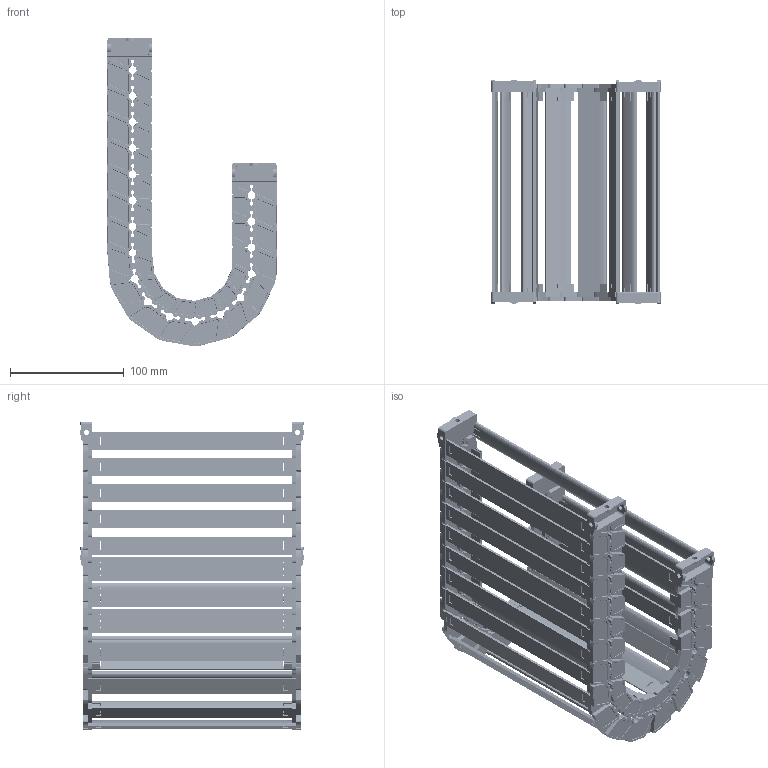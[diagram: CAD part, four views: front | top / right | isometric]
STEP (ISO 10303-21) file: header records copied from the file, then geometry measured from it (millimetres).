
FILE_DESCRIPTION((''),'2;1');
FILE_NAME('JY-32X175-R55_ASM','2026-05-04T14:18:54',('admin'),(''),'CREO PARAMETRIC BY PTC INC, 2021023','CREO PARAMETRIC BY PTC INC, 2021023','');
FILE_SCHEMA(('CONFIG_CONTROL_DESIGN'));
Length unit declared in the file: millimetre
Products named in the file (12): 32XL-L; YP; 32XL-R; ASM0001_ASM; ASM0002_ASM; 32-LTT-A-L; 32-LTT-A-R; 32XL-LTT-A_ASM; 32-LTT-B-L; 32-LTT-B-R; 32XL-LTT-B_ASM; JY-32X175-R55_ASM
Assembly tree (34 placements, depth 3):
  JY-32X175-R55_ASM
    ASM0001_ASM  x8
      32XL-L
      YP
      32XL-R
    ASM0002_ASM  x9
      32XL-L
      YP
      32XL-R
    32XL-LTT-A_ASM
      32-LTT-A-L
      YP  x2
      32-LTT-A-R
    32XL-LTT-B_ASM
      32-LTT-B-L
      YP  x2
      32-LTT-B-R
Bounding box: 148.75 x 197.1 x 271.19 mm (x, y, z)
Volume: 446037.1 mm3; surface area: 340971.3 mm2
Topology: 67 solids, 67 shells, 9314 faces, 27574 edges, 18479 vertices
Faces by surface type: plane 4086, cylinder 2417, cone 1445, extrusion 988, bspline 359, torus 14, sphere 5
Entity records: 39432 total; most frequent: CARTESIAN_POINT 11540, ORIENTED_EDGE 6210, DIRECTION 5256, EDGE_CURVE 3105, VERTEX_POINT 2079, AXIS2_PLACEMENT_3D 1784, VECTOR 1688, LINE 1628
